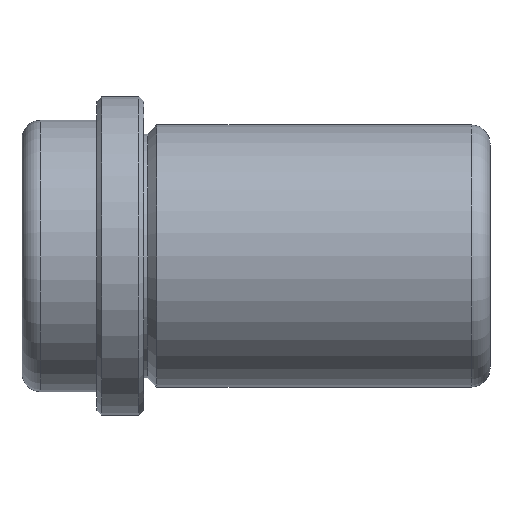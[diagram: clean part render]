
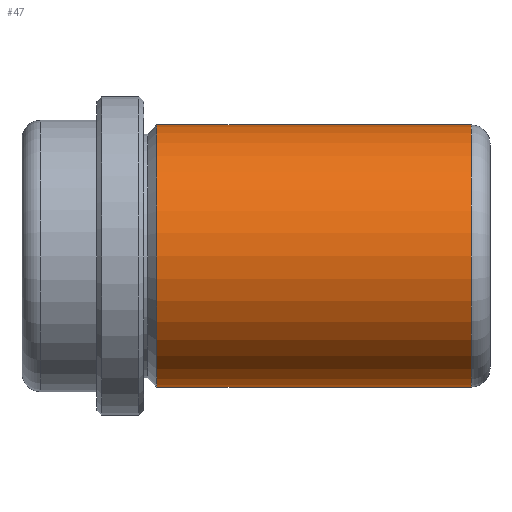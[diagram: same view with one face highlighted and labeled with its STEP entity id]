
A CAD part, front view. The second image highlights one B-rep face of the part: STEP entity #47.
In plain terms, the highlighted cylindrical face has radius 14 mm (diameter 28 mm), a full revolution.
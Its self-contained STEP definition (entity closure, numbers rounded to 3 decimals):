
#47 = ADVANCED_FACE( '', ( #106, #107, #108 ), #109, .T. );
#106 = FACE_OUTER_BOUND( '', #191, .T. );
#107 = FACE_BOUND( '', #192, .T. );
#108 = FACE_OUTER_BOUND( '', #193, .T. );
#109 = CYLINDRICAL_SURFACE( '', #194, 14. );
#191 = EDGE_LOOP( '', ( #274 ) );
#192 = EDGE_LOOP( '', ( #275 ) );
#193 = EDGE_LOOP( '', ( #276 ) );
#194 = AXIS2_PLACEMENT_3D( '', #277, #278, #279 );
#274 = ORIENTED_EDGE( '', *, *, #384, .T. );
#275 = ORIENTED_EDGE( '', *, *, #385, .T. );
#276 = ORIENTED_EDGE( '', *, *, #386, .F. );
#277 = CARTESIAN_POINT( '', ( 37., 0., 0. ) );
#278 = DIRECTION( '', ( -1., 0., 0. ) );
#279 = DIRECTION( '', ( 0., 0., -1. ) );
#384 = EDGE_CURVE( '', #427, #427, #428, .T. );
#385 = EDGE_CURVE( '', #429, #429, #430, .T. );
#386 = EDGE_CURVE( '', #431, #431, #432, .T. );
#427 = VERTEX_POINT( '', #486 );
#428 = CIRCLE( '', #487, 14. );
#429 = VERTEX_POINT( '', #488 );
#430 = B_SPLINE_CURVE_WITH_KNOTS( '', 3, ( #489, #490, #491, #492, #493, #494, #495, #496, #497, #498, #499, #500, #501, #502, #503, #504, #505, #506, #507, #508, #509, #510, #511, #512, #513, #514, #515, #516, #517, #518, #519, #520, #521, #522, #523, #524, #525, #526, #527, #528, #529, #530, #531, #532, #533, #534, #535, #536, #537, #538, #539, #540, #541, #542, #543, #544, #545, #546, #547, #548 ), .UNSPECIFIED., .T., .F., ( 2, 2, 2, 2, 2, 2, 2, 2, 2, 2, 2, 2, 2, 2, 2, 2, 2, 2, 2, 2, 2, 2, 2, 2, 2, 2, 2, 2, 2, 2, 2, 2 ), ( 0., 0., 0., 0.001, 0.001, 0.002, 0.003, 0.003, 0.004, 0.004, 0.005, 0.005, 0.006, 0.006, 0.007, 0.007, 0.008, 0.009, 0.009, 0.01, 0.01, 0.011, 0.011, 0.012, 0.012, 0.013, 0.013, 0.014, 0.015, 0.015, 0.016, 0.016 ), .UNSPECIFIED. );
#431 = VERTEX_POINT( '', #549 );
#432 = CIRCLE( '', #550, 14. );
#486 = CARTESIAN_POINT( '', ( 1.414, 0., -14. ) );
#487 = AXIS2_PLACEMENT_3D( '', #662, #663, #664 );
#488 = CARTESIAN_POINT( '', ( 8., 13.775, -2.5 ) );
#489 = CARTESIAN_POINT( '', ( 7.834, 13.775, -2.5 ) );
#490 = CARTESIAN_POINT( '', ( 8.166, 13.775, -2.5 ) );
#491 = CARTESIAN_POINT( '', ( 8.328, 13.778, -2.484 ) );
#492 = CARTESIAN_POINT( '', ( 8.648, 13.789, -2.42 ) );
#493 = CARTESIAN_POINT( '', ( 8.807, 13.798, -2.372 ) );
#494 = CARTESIAN_POINT( '', ( 9.11, 13.819, -2.246 ) );
#495 = CARTESIAN_POINT( '', ( 9.253, 13.831, -2.169 ) );
#496 = CARTESIAN_POINT( '', ( 9.525, 13.858, -1.988 ) );
#497 = CARTESIAN_POINT( '', ( 9.653, 13.873, -1.883 ) );
#498 = CARTESIAN_POINT( '', ( 9.998, 13.917, -1.537 ) );
#499 = CARTESIAN_POINT( '', ( 10.184, 13.947, -1.259 ) );
#500 = CARTESIAN_POINT( '', ( 10.371, 13.977, -0.808 ) );
#501 = CARTESIAN_POINT( '', ( 10.42, 13.986, -0.65 ) );
#502 = CARTESIAN_POINT( '', ( 10.484, 13.997, -0.327 ) );
#503 = CARTESIAN_POINT( '', ( 10.5, 14., -0.165 ) );
#504 = CARTESIAN_POINT( '', ( 10.5, 14., 0.162 ) );
#505 = CARTESIAN_POINT( '', ( 10.484, 13.997, 0.328 ) );
#506 = CARTESIAN_POINT( '', ( 10.42, 13.986, 0.649 ) );
#507 = CARTESIAN_POINT( '', ( 10.373, 13.978, 0.805 ) );
#508 = CARTESIAN_POINT( '', ( 10.247, 13.957, 1.108 ) );
#509 = CARTESIAN_POINT( '', ( 10.169, 13.944, 1.254 ) );
#510 = CARTESIAN_POINT( '', ( 9.988, 13.917, 1.524 ) );
#511 = CARTESIAN_POINT( '', ( 9.885, 13.903, 1.651 ) );
#512 = CARTESIAN_POINT( '', ( 9.652, 13.873, 1.884 ) );
#513 = CARTESIAN_POINT( '', ( 9.526, 13.859, 1.987 ) );
#514 = CARTESIAN_POINT( '', ( 9.256, 13.831, 2.168 ) );
#515 = CARTESIAN_POINT( '', ( 9.109, 13.819, 2.246 ) );
#516 = CARTESIAN_POINT( '', ( 8.807, 13.798, 2.372 ) );
#517 = CARTESIAN_POINT( '', ( 8.651, 13.789, 2.419 ) );
#518 = CARTESIAN_POINT( '', ( 8.33, 13.778, 2.483 ) );
#519 = CARTESIAN_POINT( '', ( 8.164, 13.775, 2.5 ) );
#520 = CARTESIAN_POINT( '', ( 7.674, 13.775, 2.5 ) );
#521 = CARTESIAN_POINT( '', ( 7.345, 13.787, 2.434 ) );
#522 = CARTESIAN_POINT( '', ( 6.893, 13.819, 2.248 ) );
#523 = CARTESIAN_POINT( '', ( 6.747, 13.831, 2.17 ) );
#524 = CARTESIAN_POINT( '', ( 6.475, 13.858, 1.988 ) );
#525 = CARTESIAN_POINT( '', ( 6.349, 13.873, 1.885 ) );
#526 = CARTESIAN_POINT( '', ( 6.119, 13.902, 1.654 ) );
#527 = CARTESIAN_POINT( '', ( 6.013, 13.917, 1.526 ) );
#528 = CARTESIAN_POINT( '', ( 5.832, 13.944, 1.255 ) );
#529 = CARTESIAN_POINT( '', ( 5.755, 13.957, 1.112 ) );
#530 = CARTESIAN_POINT( '', ( 5.629, 13.977, 0.809 ) );
#531 = CARTESIAN_POINT( '', ( 5.581, 13.986, 0.65 ) );
#532 = CARTESIAN_POINT( '', ( 5.517, 13.997, 0.331 ) );
#533 = CARTESIAN_POINT( '', ( 5.5, 14., 0.167 ) );
#534 = CARTESIAN_POINT( '', ( 5.5, 14., -0.163 ) );
#535 = CARTESIAN_POINT( '', ( 5.516, 13.997, -0.326 ) );
#536 = CARTESIAN_POINT( '', ( 5.579, 13.986, -0.646 ) );
#537 = CARTESIAN_POINT( '', ( 5.628, 13.978, -0.805 ) );
#538 = CARTESIAN_POINT( '', ( 5.753, 13.957, -1.108 ) );
#539 = CARTESIAN_POINT( '', ( 5.829, 13.945, -1.251 ) );
#540 = CARTESIAN_POINT( '', ( 6.011, 13.918, -1.523 ) );
#541 = CARTESIAN_POINT( '', ( 6.116, 13.903, -1.651 ) );
#542 = CARTESIAN_POINT( '', ( 6.461, 13.859, -1.997 ) );
#543 = CARTESIAN_POINT( '', ( 6.739, 13.829, -2.183 ) );
#544 = CARTESIAN_POINT( '', ( 7.19, 13.798, -2.371 ) );
#545 = CARTESIAN_POINT( '', ( 7.348, 13.789, -2.419 ) );
#546 = CARTESIAN_POINT( '', ( 7.671, 13.778, -2.484 ) );
#547 = CARTESIAN_POINT( '', ( 7.834, 13.775, -2.5 ) );
#548 = CARTESIAN_POINT( '', ( 8.166, 13.775, -2.5 ) );
#549 = CARTESIAN_POINT( '', ( 35., 0., -14. ) );
#550 = AXIS2_PLACEMENT_3D( '', #665, #666, #667 );
#662 = CARTESIAN_POINT( '', ( 1.414, 0., 0. ) );
#663 = DIRECTION( '', ( 1., 0., 0. ) );
#664 = DIRECTION( '', ( 0., 0., -1. ) );
#665 = CARTESIAN_POINT( '', ( 35., 0., 0. ) );
#666 = DIRECTION( '', ( 1., 0., 0. ) );
#667 = DIRECTION( '', ( 0., 0., -1. ) );
